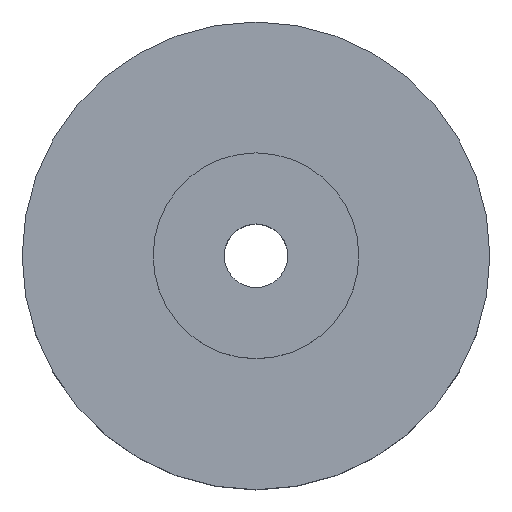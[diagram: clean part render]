
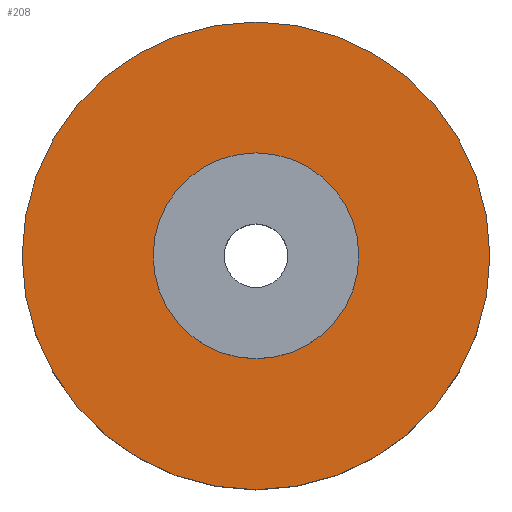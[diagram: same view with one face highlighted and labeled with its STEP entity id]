
A CAD part, top view. The second image highlights one B-rep face of the part: STEP entity #208.
In plain terms, the highlighted planar face has unit normal (0, 0, 1).
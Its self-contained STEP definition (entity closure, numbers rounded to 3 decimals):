
#13 = EDGE_LOOP ( 'NONE', ( #295, #306 ) ) ;
#38 = PLANE ( 'NONE',  #277 ) ;
#51 = EDGE_CURVE ( 'NONE', #371, #319, #317, .T. ) ;
#74 = AXIS2_PLACEMENT_3D ( 'NONE', #357, #172, #364 ) ;
#78 = AXIS2_PLACEMENT_3D ( 'NONE', #118, #348, #230 ) ;
#102 = DIRECTION ( 'NONE',  ( 1., 0., 0. ) ) ;
#109 = ORIENTED_EDGE ( 'NONE', *, *, #143, .T. ) ;
#111 = AXIS2_PLACEMENT_3D ( 'NONE', #381, #328, #260 ) ;
#118 = CARTESIAN_POINT ( 'NONE',  ( 0., 0., 15. ) ) ;
#140 = CIRCLE ( 'NONE', #222, 25. ) ;
#143 = EDGE_CURVE ( 'NONE', #403, #382, #343, .T. ) ;
#144 = DIRECTION ( 'NONE',  ( 0., 0., 1. ) ) ;
#151 = CARTESIAN_POINT ( 'NONE',  ( 25., 0., 15. ) ) ;
#159 = EDGE_LOOP ( 'NONE', ( #109, #366 ) ) ;
#172 = DIRECTION ( 'NONE',  ( 0., 0., 1. ) ) ;
#179 = FACE_BOUND ( 'NONE', #13, .T. ) ;
#193 = CARTESIAN_POINT ( 'NONE',  ( -11., 0., 15. ) ) ;
#208 = ADVANCED_FACE ( 'NONE', ( #179, #341 ), #38, .T. ) ;
#222 = AXIS2_PLACEMENT_3D ( 'NONE', #279, #223, #273 ) ;
#223 = DIRECTION ( 'NONE',  ( 0., 0., 1. ) ) ;
#230 = DIRECTION ( 'NONE',  ( 1., 0., 0. ) ) ;
#260 = DIRECTION ( 'NONE',  ( 1., 0., 0. ) ) ;
#269 = CARTESIAN_POINT ( 'NONE',  ( -25., 0., 15. ) ) ;
#273 = DIRECTION ( 'NONE',  ( 1., 0., 0. ) ) ;
#277 = AXIS2_PLACEMENT_3D ( 'NONE', #333, #144, #102 ) ;
#279 = CARTESIAN_POINT ( 'NONE',  ( 0., 0., 15. ) ) ;
#295 = ORIENTED_EDGE ( 'NONE', *, *, #311, .F. ) ;
#306 = ORIENTED_EDGE ( 'NONE', *, *, #51, .F. ) ;
#307 = CIRCLE ( 'NONE', #74, 11. ) ;
#311 = EDGE_CURVE ( 'NONE', #319, #371, #307, .T. ) ;
#317 = CIRCLE ( 'NONE', #111, 11. ) ;
#319 = VERTEX_POINT ( 'NONE', #193 ) ;
#328 = DIRECTION ( 'NONE',  ( 0., 0., 1. ) ) ;
#333 = CARTESIAN_POINT ( 'NONE',  ( 0., 0., 15. ) ) ;
#335 = CARTESIAN_POINT ( 'NONE',  ( 11., 0., 15. ) ) ;
#341 = FACE_OUTER_BOUND ( 'NONE', #159, .T. ) ;
#343 = CIRCLE ( 'NONE', #78, 25. ) ;
#348 = DIRECTION ( 'NONE',  ( 0., 0., 1. ) ) ;
#357 = CARTESIAN_POINT ( 'NONE',  ( 0., 0., 15. ) ) ;
#364 = DIRECTION ( 'NONE',  ( 1., 0., 0. ) ) ;
#366 = ORIENTED_EDGE ( 'NONE', *, *, #400, .T. ) ;
#371 = VERTEX_POINT ( 'NONE', #335 ) ;
#381 = CARTESIAN_POINT ( 'NONE',  ( 0., 0., 15. ) ) ;
#382 = VERTEX_POINT ( 'NONE', #151 ) ;
#400 = EDGE_CURVE ( 'NONE', #382, #403, #140, .T. ) ;
#403 = VERTEX_POINT ( 'NONE', #269 ) ;
